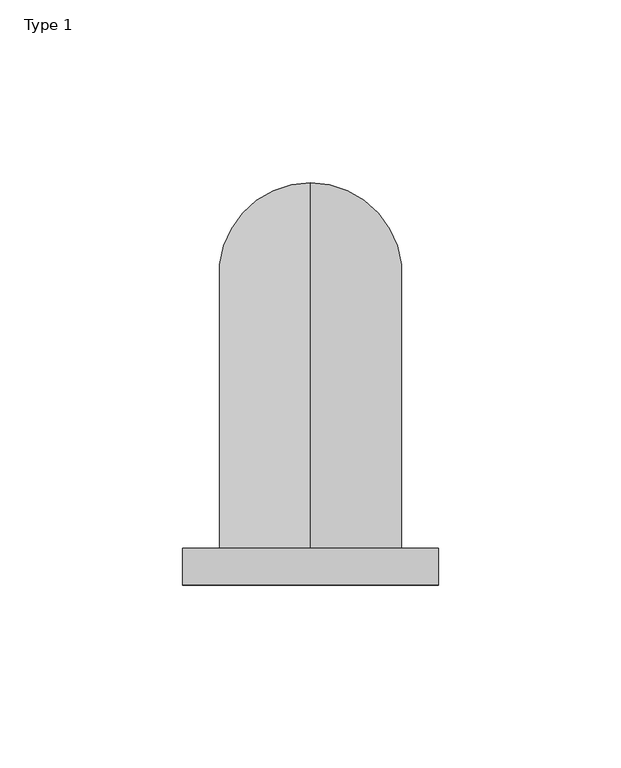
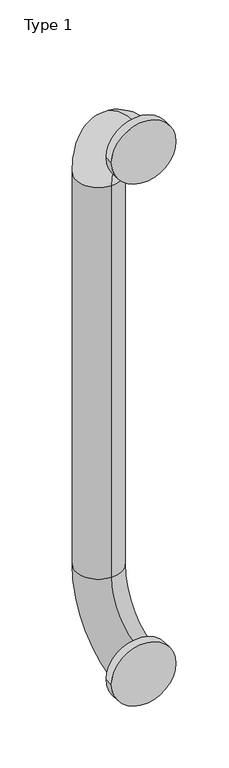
"""IFC4 building model written with IfcOpenShell, lengths in millimetres: proxy geometry, BIMHealth-Grab_Rail_Vertical-LOD2A-v1 : Type 1."""

from ifc_helpers import new_model, si_unit, point, frame, frame_2d, origin, place, context, project, spatial, circle_curve, ellipse_curve, trimmed, segment, composite_curve, outline, extrude, source, transform, mapped, element, save
from ifc_brep_helpers import plane_surface, cylinder_surface, revolved_surface, advanced_brep


def type_1_3e4eb001(model_context):
    return source(origin(), model_context, "Body", "SolidModel", [
        advanced_brep(
        [(125.0, 160.0, 1325.0), (125.0, 110.0, 1325.0), (125.0, 110.0, 875.0), (125.0, 160.0, 875.0), (125.0, 60.0, 1375.0), (125.0, 60.0, 1425.0), (125.0, 60.0, 825.0), (125.0, 60.0, 775.0)],
        [
            (0, 1, circle_curve(frame((125.0, 135.0, 1325.0), z_axis=(0.0, 0.0, -1.0), x_axis=(0.0, 1.0, 0.0)), 25.0)),
            (1, 2),
            (2, 3, circle_curve(frame((125.0, 135.0, 875.0), z_axis=(0.0, 0.0, 1.0), x_axis=(0.0, 1.0, 0.0)), 25.0)),
            (3, 0),
            (1, 0, circle_curve(frame((125.0, 135.0, 1325.0), z_axis=(0.0, 0.0, -1.0), x_axis=(0.0, 1.0, 0.0)), 25.0)),
            (3, 2, circle_curve(frame((125.0, 135.0, 875.0), z_axis=(0.0, 0.0, 1.0), x_axis=(0.0, 1.0, 0.0)), 25.0)),
            (4, 5, circle_curve(frame((125.0, 60.0, 1400.0), z_axis=(0.0, -1.0, 0.0), x_axis=(0.0, 0.0, 1.0)), 25.0)),
            (5, 4, circle_curve(frame((125.0, 60.0, 1400.0), z_axis=(0.0, -1.0, 0.0), x_axis=(0.0, 0.0, 1.0)), 25.0)),
            (0, 5, circle_curve(frame((125.0, 60.0, 1325.0), z_axis=(1.0, 0.0, 0.0), x_axis=(0.0, 0.0, 1.0)), 100.0)),
            (4, 1, circle_curve(frame((125.0, 60.0, 1325.0), z_axis=(-1.0, 0.0, 0.0), x_axis=(0.0, 0.0, 1.0)), 50.0)),
            (6, 7, circle_curve(frame((125.0, 60.0, 800.0), z_axis=(0.0, -1.0, 0.0), x_axis=(0.0, 0.0, -1.0)), 25.0)),
            (7, 6, circle_curve(frame((125.0, 60.0, 800.0), z_axis=(0.0, -1.0, 0.0), x_axis=(0.0, 0.0, -1.0)), 25.0)),
            (7, 3, circle_curve(frame((125.0, 60.0, 875.0), z_axis=(1.0, 0.0, 0.0), x_axis=(0.0, 1.0, 0.0)), 100.0)),
            (2, 6, circle_curve(frame((125.0, 60.0, 875.0), z_axis=(-1.0, 0.0, 0.0), x_axis=(0.0, 1.0, 0.0)), 50.0)),
        ],
        [
            cylinder_surface(frame((125.0, 135.0, 1325.0), z_axis=(0.0, 0.0, 1.0), x_axis=(0.0, 1.0, 0.0)), 25.0),
            plane_surface(frame((125.0, 60.0, 1400.0), z_axis=(0.0, -1.0, 0.0), x_axis=(1.0, 0.0, 0.0))),
            revolved_surface(trimmed(ellipse_curve(frame((125.0, 60.0, 1400.0), z_axis=(0.0, -1.0, 0.0), x_axis=(0.0, 0.0, 1.0)), 25.0, 25.0), [point((125.0, 60.0, 1375.0))], [point((125.0, 60.0, 1425.0))], True, "CARTESIAN"), (125.0, 60.0, 1325.0), (-1.0, 0.0, 0.0)),
            revolved_surface(trimmed(ellipse_curve(frame((125.0, 60.0, 1400.0), z_axis=(0.0, -1.0, 0.0), x_axis=(0.0, 0.0, 1.0)), 25.0, 25.0), [point((125.0, 60.0, 1425.0))], [point((125.0, 60.0, 1375.0))], True, "CARTESIAN"), (125.0, 60.0, 1325.0), (-1.0, 0.0, 0.0)),
            plane_surface(frame((125.0, 60.0, 800.0), z_axis=(0.0, -1.0, 0.0), x_axis=(1.0, 0.0, 0.0))),
            revolved_surface(trimmed(ellipse_curve(frame((125.0, 135.0, 875.0), z_axis=(0.0, 0.0, 1.0), x_axis=(0.0, 1.0, 0.0)), 25.0, 25.0), [point((125.0, 110.0, 875.0))], [point((125.0, 160.0, 875.0))], True, "CARTESIAN"), (125.0, 60.0, 875.0), (-1.0, 0.0, 0.0)),
            revolved_surface(trimmed(ellipse_curve(frame((125.0, 135.0, 875.0), z_axis=(0.0, 0.0, 1.0), x_axis=(0.0, 1.0, 0.0)), 25.0, 25.0), [point((125.0, 160.0, 875.0))], [point((125.0, 110.0, 875.0))], True, "CARTESIAN"), (125.0, 60.0, 875.0), (-1.0, 0.0, 0.0)),
        ],
        [
            (0, [[1, 2, 3, 4]]),
            (0, [[5, -4, 6, -2]]),
            (1, [[7, 8]]),
            (2, [[9, -7, 10, -1]]),
            (3, [[-10, -8, -9, -5]]),
            (4, [[11, 12]]),
            (5, [[13, -3, 14, -12]]),
            (6, [[-14, -6, -13, -11]]),
        ],
    ),
        extrude(outline(composite_curve([segment(trimmed(circle_curve(frame_2d((800.0, 125.0)), 35.0), [point((800.0, 160.0))], [point((800.0, 90.0))], False, "CARTESIAN"), True, "CONTINUOUS"), segment(trimmed(circle_curve(frame_2d((800.0, 125.0)), 35.0), [point((800.0, 90.0))], [point((800.0, 160.0))], False, "CARTESIAN"), True, "CONTINUOUS")], self_intersect=False)), frame((0.0, 50.0, 0.0), z_axis=(0.0, 1.0, 0.0), x_axis=(0.0, 0.0, 1.0)), (0.0, 0.0, 1.0), 10.0),
        extrude(outline(composite_curve([segment(trimmed(circle_curve(frame_2d((1400.0, 125.0)), 35.0), [point((1400.0, 160.0))], [point((1400.0, 90.0))], False, "CARTESIAN"), True, "CONTINUOUS"), segment(trimmed(circle_curve(frame_2d((1400.0, 125.0)), 35.0), [point((1400.0, 90.0))], [point((1400.0, 160.0))], False, "CARTESIAN"), True, "CONTINUOUS")], self_intersect=False)), frame((0.0, 50.0, 0.0), z_axis=(0.0, 1.0, 0.0), x_axis=(0.0, 0.0, 1.0)), (0.0, 0.0, 1.0), 10.0),
    ])


if __name__ == "__main__":
    model = new_model("IFC4")
    model_context = context("Model", 3, world=origin())
    ifc_project = project(units=[si_unit("LENGTHUNIT", "METRE", prefix="MILLI")], contexts=[model_context])
    site = spatial("IfcSite", under=ifc_project)
    building = spatial("IfcBuilding", under=site)
    placement = place(None, origin())
    type_1_shape = type_1_3e4eb001(model_context)
    element("IfcBuildingElementProxy", 1, Name="BIMHealth-Grab_Rail_Vertical-LOD2A-v1 : Type 1", ObjectType="BIMHealth-Grab_Rail_Vertical-LOD2A-v1 : Type 1", at=placement, inside=building, context=model_context, shape_type="MappedRepresentation", body=[
        mapped(type_1_shape, transform((0.0, 0.0, 0.0), x_axis=(1.0, 0.0, 0.0), y_axis=(0.0, 1.0, 0.0), z_axis=(0.0, 0.0, 1.0))),
    ])
    save(model, "model.ifc")
